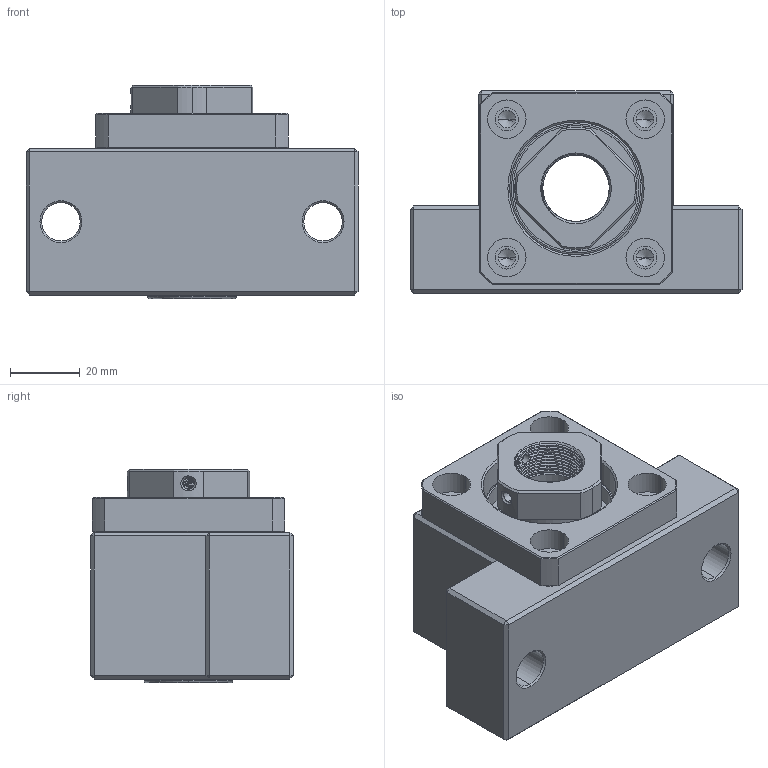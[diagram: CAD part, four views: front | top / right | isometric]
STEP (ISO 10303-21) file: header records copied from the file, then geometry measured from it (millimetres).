
FILE_DESCRIPTION (( 'STEP AP203' ), '1' );
FILE_NAME ('EK20²Õ¦X.STEP', '2010-08-11T10:32:12', ( '' ), ( '' ), 'SwSTEP 2.0', 'SolidWorks 2008', '' );
FILE_SCHEMA (( 'CONFIG_CONTROL_DESIGN' ));
Length unit declared in the file: millimetre
Products named in the file (1): EK20組合
Bounding box: 95 x 58 x 61 mm (x, y, z)
Volume: 161342.5 mm3; surface area: 68309.4 mm2
Topology: 33 solids, 33 shells, 436 faces, 1019 edges, 610 vertices
Faces by surface type: cylinder 121, plane 99, torus 88, cone 66, sphere 44, bspline 18
Entity records: 21114 total; most frequent: CARTESIAN_POINT 11813, DIRECTION 2054, ORIENTED_EDGE 1802, EDGE_CURVE 901, AXIS2_PLACEMENT_3D 882, VERTEX_POINT 544, EDGE_LOOP 487, CIRCLE 463
